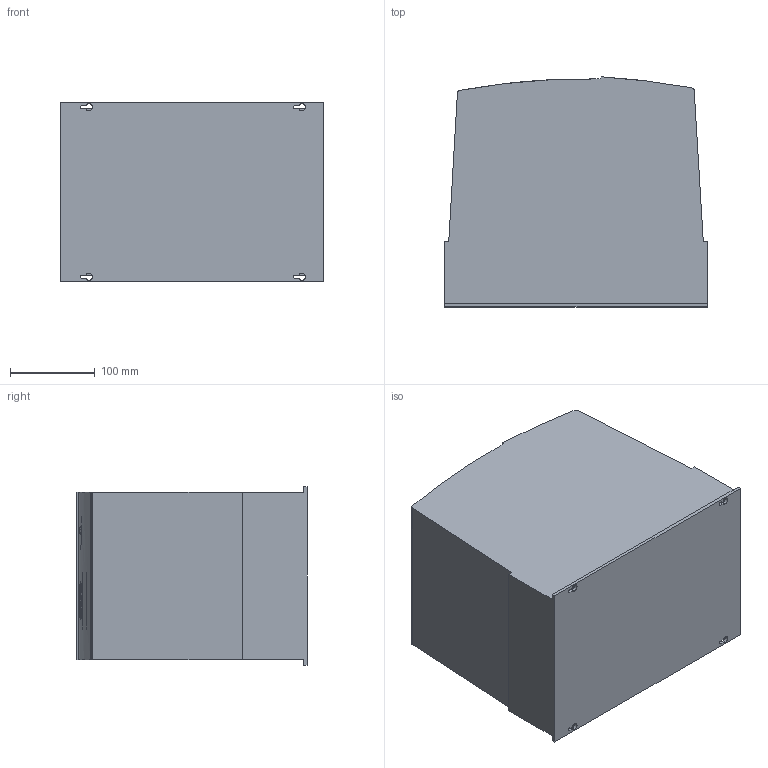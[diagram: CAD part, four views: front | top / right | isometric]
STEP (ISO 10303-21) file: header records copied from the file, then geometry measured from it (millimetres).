
FILE_DESCRIPTION (( 'STEP AP214' ), '1' );
FILE_NAME ('ECO S3 IP66 SW1.STEP', '2017-08-15T12:52:51', ( '' ), ( '' ), 'SwSTEP 2.0', 'SolidWorks 2017', '' );
FILE_SCHEMA (( 'AUTOMOTIVE_DESIGN' ));
Length unit declared in the file: millimetre
Products named in the file (1): ECO S3 IP66 SW1
Bounding box: 310 x 271.23 x 211 mm (x, y, z)
Volume: 15414038.6 mm3; surface area: 385538.9 mm2
Topology: 1 solids, 1 shells, 366 faces, 959 edges, 634 vertices
Faces by surface type: plane 186, cylinder 111, bspline 69
Entity records: 13551 total; most frequent: CARTESIAN_POINT 5251, ORIENTED_EDGE 1918, DIRECTION 1399, EDGE_CURVE 959, VERTEX_POINT 634, VECTOR 475, LINE 475, AXIS2_PLACEMENT_3D 462
